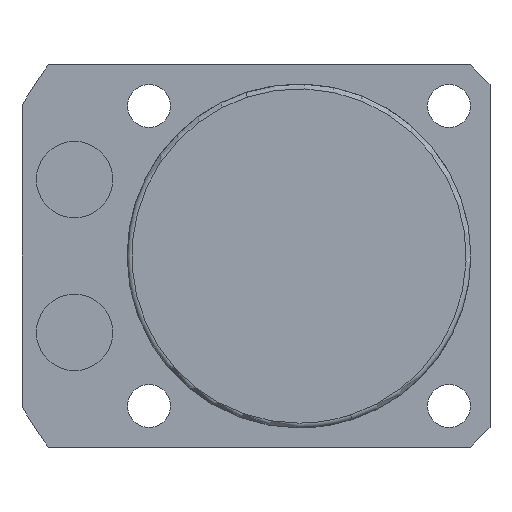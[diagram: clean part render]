
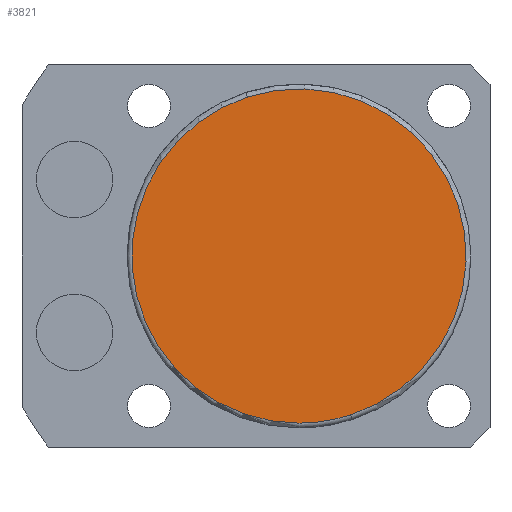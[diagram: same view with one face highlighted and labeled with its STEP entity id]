
A CAD part, front view. The second image highlights one B-rep face of the part: STEP entity #3821.
In plain terms, the highlighted planar face has unit normal (0, -1, 0).
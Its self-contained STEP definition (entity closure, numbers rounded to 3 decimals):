
#3754=CARTESIAN_POINT('',(5.408,-50.5,-16.643));
#3755=VERTEX_POINT('',#3754);
#3773=CARTESIAN_POINT('',(-5.408,-50.5,16.643));
#3774=VERTEX_POINT('',#3773);
#3782=CARTESIAN_POINT('',(0.0,-50.5,0.0));
#3783=DIRECTION('',(0.0,-1.0,0.0));
#3784=DIRECTION('',(0.0,0.0,-1.0));
#3785=AXIS2_PLACEMENT_3D('',#3782,#3783,#3784);
#3786=CIRCLE('',#3785,17.5);
#3787=EDGE_CURVE('no 2728',#3755,#3774,#3786,.T.);
#3797=CARTESIAN_POINT('',(0.0,-50.5,-17.5));
#3798=VERTEX_POINT('',#3797);
#3799=CARTESIAN_POINT('',(0.0,-50.5,0.0));
#3800=DIRECTION('',(0.0,-1.0,0.0));
#3801=DIRECTION('',(0.0,0.0,-1.0));
#3802=AXIS2_PLACEMENT_3D('',#3799,#3800,#3801);
#3803=CIRCLE('',#3802,17.5);
#3804=EDGE_CURVE('no 2737',#3798,#3755,#3803,.T.);
#3805=ORIENTED_EDGE('',*,*,#3804,.T.);
#3806=ORIENTED_EDGE('',*,*,#3787,.T.);
#3807=CARTESIAN_POINT('',(0.0,-50.5,0.0));
#3808=DIRECTION('',(0.0,-1.0,0.0));
#3809=DIRECTION('',(0.0,0.0,-1.0));
#3810=AXIS2_PLACEMENT_3D('',#3807,#3808,#3809);
#3811=CIRCLE('',#3810,17.5);
#3812=EDGE_CURVE('no 2743',#3774,#3798,#3811,.T.);
#3813=ORIENTED_EDGE('',*,*,#3812,.T.);
#3814=EDGE_LOOP('',(#3805,#3806,#3813));
#3815=FACE_OUTER_BOUND('',#3814,.T.);
#3816=CARTESIAN_POINT('',(0.0,-50.5,0.0));
#3817=DIRECTION('',(0.0,-1.0,0.0));
#3818=DIRECTION('',(0.0,0.0,-1.0));
#3819=AXIS2_PLACEMENT_3D('',#3816,#3817,#3818);
#3820=PLANE('',#3819);
#3821=ADVANCED_FACE('no 2730',(#3815),#3820,.T.);
